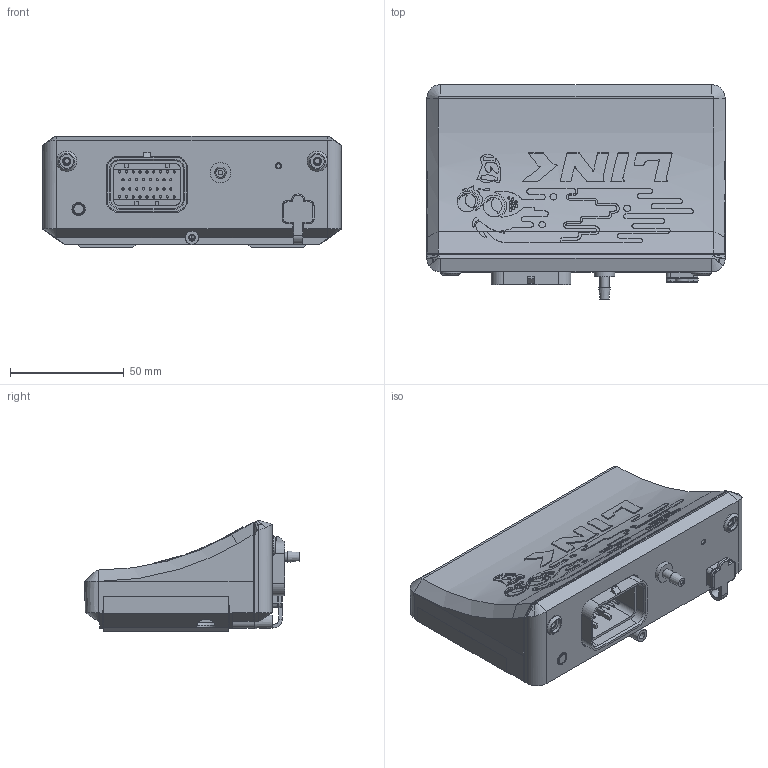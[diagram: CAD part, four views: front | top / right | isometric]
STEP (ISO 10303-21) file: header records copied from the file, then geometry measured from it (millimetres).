
FILE_DESCRIPTION(/* description */ ('STEP AP242','CAx-IF Rec.Pracs.---Representation and Presentation of Product Manufacturing Information (PMI)---4.0---2014-10-13','CAx-IF Rec.Pracs.---3D Tessellated Geometry---0.4---2014-09-14','2;1'),/* implementation_level */ '2;1');
FILE_NAME(/* name */ '67243bd3ab73ea3fbd412e05',/* time_stamp */ '2024-11-01T02:24:21Z',/* author */ (''),/* organization */ (''),/* preprocessor_version */ 'ST-DEVELOPER v20',/* originating_system */ ' ',/* authorisation */ ' ');
FILE_SCHEMA (('AP242_MANAGED_MODEL_BASED_3D_ENGINEERING_MIM_LF { 1 0 10303 442 1 1 4 }'));
Products named in the file (2): MOUNT BRACKET - ATOM MONSOON; MONSOON EXTERNAL MODEL
Bounding box: 131 x 94.3 x 48.96 mm (x, y, z)
Volume: 303913.3 mm3; surface area: 92966.9 mm2
Topology: 2 solids, 22 shells, 1397 faces, 3673 edges, 2378 vertices
Faces by surface type: plane 756, cylinder 323, bspline 148, cone 127, torus 35, sphere 8
Full cylindrical faces by diameter (mm): 1 x34, 2 x2, 4 x1, 4.148 x1, 4.8 x1, 5 x1, 5.5 x4, 6 x1, 8 x3, 9 x1
Entity records: 51373 total; most frequent: CARTESIAN_POINT 19015, ORIENTED_EDGE 6910, DIRECTION 6043, EDGE_CURVE 3455, VERTEX_POINT 2278, LINE 2069, VECTOR 2069, AXIS2_PLACEMENT_3D 1987
